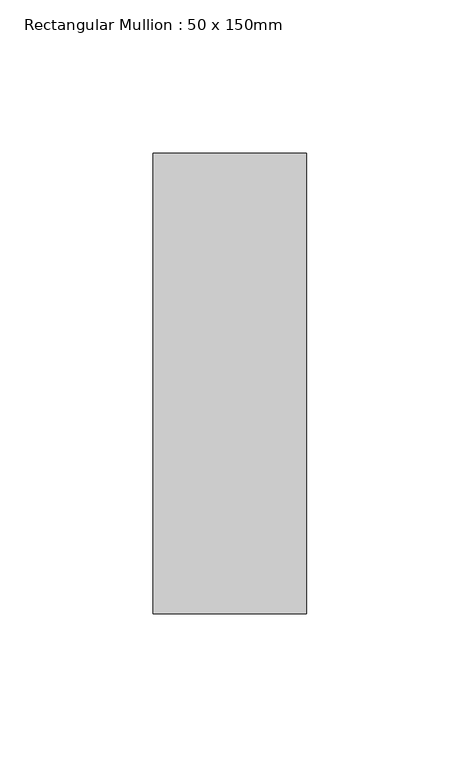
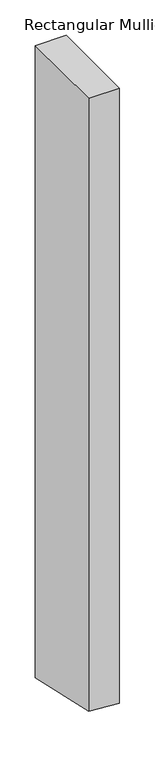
"""IFC4 building model written with IfcOpenShell, lengths in millimetres: member geometry, Rectangular Mullion : 50 x 150mm."""

from ifc_helpers import new_model, si_unit, origin, place, context, project, spatial, faceted_brep, source, transform, mapped, element, save


def rectangular_mullion_50_x_150mm_53b6e98a(model_context):
    return source(origin(), model_context, "Body", "Brep", [
        faceted_brep([(0.0, 75.0, 0.0), (-50.0, 75.0, 0.0), (-50.0, -75.0, 0.0), (0.0, -75.0, 0.0), (0.0, 75.0, -1093.1523452), (-50.0, 75.0, -1089.8827064), (-50.0, -75.0, -1056.7822793), (0.0, -75.0, -1060.0519181)], [[[0, 1, 2, 3]], [[1, 0, 4, 5]], [[2, 1, 5, 6]], [[3, 2, 6, 7]], [[0, 3, 7, 4]], [[4, 7, 6, 5]]]),
    ])


if __name__ == "__main__":
    model = new_model("IFC4")
    model_context = context("Model", 3, world=origin())
    ifc_project = project(units=[si_unit("LENGTHUNIT", "METRE", prefix="MILLI")], contexts=[model_context])
    site = spatial("IfcSite", under=ifc_project)
    building = spatial("IfcBuilding", under=site)
    placement = place(None, origin())
    rectangular_mullion_50_x_150mm_shape = rectangular_mullion_50_x_150mm_53b6e98a(model_context)
    element("IfcMember", 1, ObjectType="Rectangular Mullion : 50 x 150mm", at=placement, inside=building, context=model_context, shape_type="MappedRepresentation", body=[
        mapped(rectangular_mullion_50_x_150mm_shape, transform((0.0, 0.0, 0.0), x_axis=(1.0, 0.0, 0.0), y_axis=(0.0, 1.0, 0.0), z_axis=(0.0, 0.0, 1.0))),
    ])
    save(model, "model.ifc")
